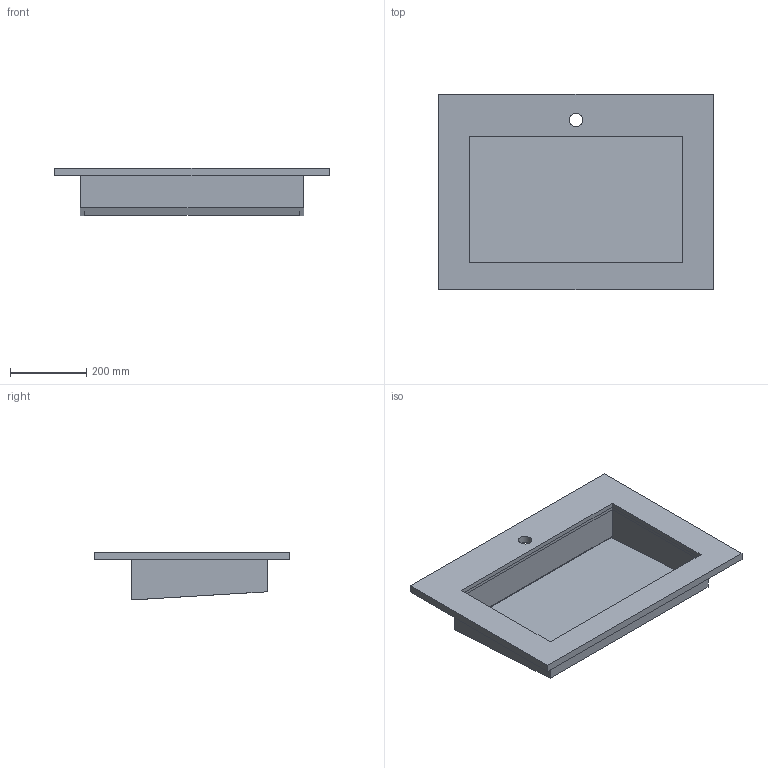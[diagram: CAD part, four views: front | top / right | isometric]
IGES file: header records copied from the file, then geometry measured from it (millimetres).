
Start section: Data from Parasolid IGES Translator 19.0.9, Copyright(c) 2006 Siemens PL M Software. All Rights Reserved.
Global section: file name: noorth-top-H 2 D 51,3 W 72_4649.igs; native system: By Siemens PLM Incorporated; preprocessor: XPlus GENERIC/IGES 19.0.9; author: Noname; organization: Noname; date: 20200603.113402; units: metre
Bounding box: 720 x 512 x 125.73 mm (x, y, z)
Volume: 8326057.7 mm3; surface area: 1215249.4 mm2
Topology: 2 solids, 2 shells, 30 faces, 81 edges, 54 vertices
Faces by surface type: plane 29, cylinder 1
Full cylindrical faces by diameter (mm): 34.9 x1
